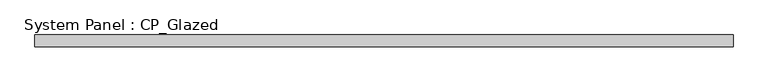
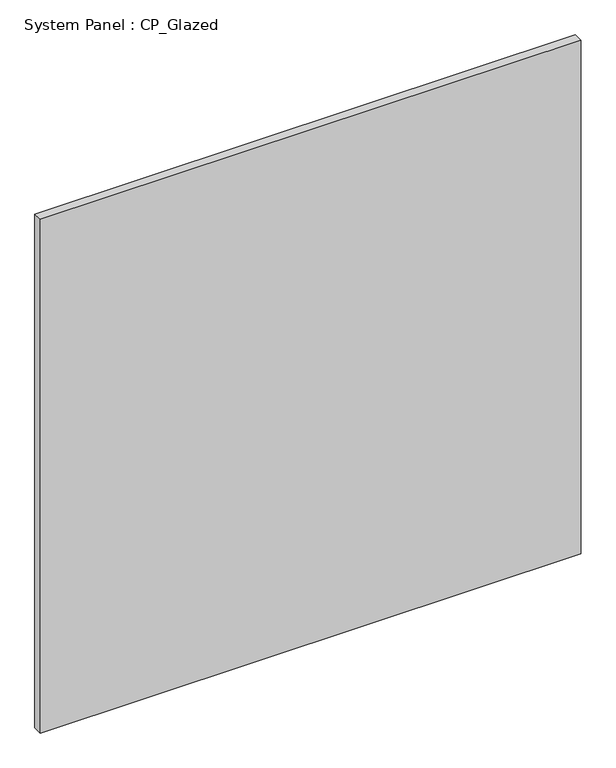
"""IFC4 building model written with IfcOpenShell, lengths in millimetres: plate geometry, System Panel : CP_Glazed."""

from ifc_helpers import new_model, si_unit, origin, origin_with_axes, place, context, project, spatial, polyline, outline, extrude, source, transform, mapped, element, save


def system_panel_cp_glazed_6cf95972(model_context):
    return source(origin(), model_context, "Body", "SweptSolid", [
        extrude(outline(polyline([(736.6, 19.05), (-736.6, 19.05), (-736.6, 44.45), (736.6, 44.45), (736.6, 19.05)])), origin_with_axes(), (0.0, 0.0, 1.0), 1479.55),
    ])


if __name__ == "__main__":
    model = new_model("IFC4")
    model_context = context("Model", 3, world=origin())
    ifc_project = project(units=[si_unit("LENGTHUNIT", "METRE", prefix="MILLI")], contexts=[model_context])
    site = spatial("IfcSite", under=ifc_project)
    building = spatial("IfcBuilding", under=site)
    placement = place(None, origin())
    system_panel_cp_glazed_shape = system_panel_cp_glazed_6cf95972(model_context)
    element("IfcPlate", 1, ObjectType="System Panel : CP_Glazed", at=placement, inside=building, context=model_context, shape_type="MappedRepresentation", body=[
        mapped(system_panel_cp_glazed_shape, transform((0.0, 0.0, 0.0), x_axis=(1.0, 0.0, 0.0), y_axis=(0.0, 1.0, 0.0), z_axis=(0.0, 0.0, 1.0))),
    ])
    save(model, "model.ifc")
